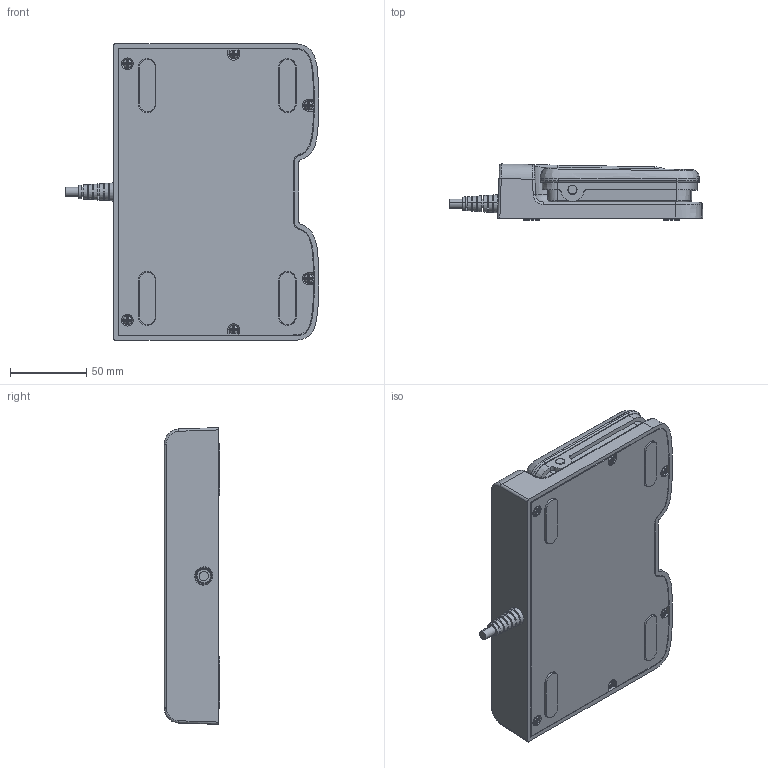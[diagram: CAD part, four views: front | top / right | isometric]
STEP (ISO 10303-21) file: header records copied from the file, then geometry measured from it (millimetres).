
FILE_DESCRIPTION (( 'STEP AP214' ), '1' );
FILE_NAME ('產品三維模型圖-TFS3-有線版-A.STEP', '2015-06-12T06:49:44', ( '' ), ( '' ), 'SwSTEP 2.0', 'SolidWorks 2010', '' );
FILE_SCHEMA (( 'AUTOMOTIVE_DESIGN' ));
Length unit declared in the file: millimetre
Products named in the file (1): 產品三維模型圖-TFS3-有線版-A
Bounding box: 166.42 x 36.45 x 194.58 mm (x, y, z)
Volume: 764915.8 mm3; surface area: 204079.2 mm2
Topology: 19 solids, 19 shells, 916 faces, 2388 edges, 1498 vertices
Faces by surface type: cylinder 299, plane 280, torus 166, bspline 119, sphere 36, cone 16
Entity records: 64622 total; most frequent: CARTESIAN_POINT 32786, ORIENTED_EDGE 4720, DIRECTION 4332, EDGE_CURVE 2360, AXIS2_PLACEMENT_3D 1731, VERTEX_POINT 1498, EDGE_LOOP 956, UNCERTAINTY_MEASURE_WITH_UNIT 937
